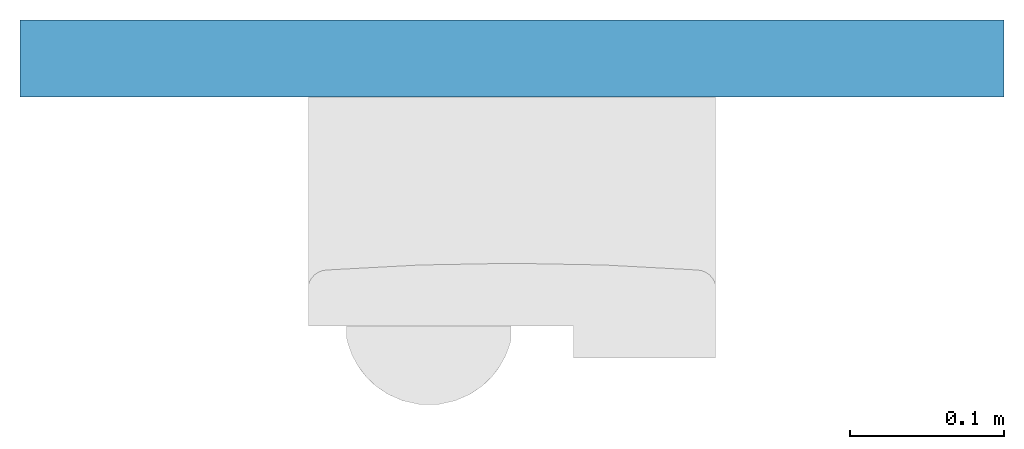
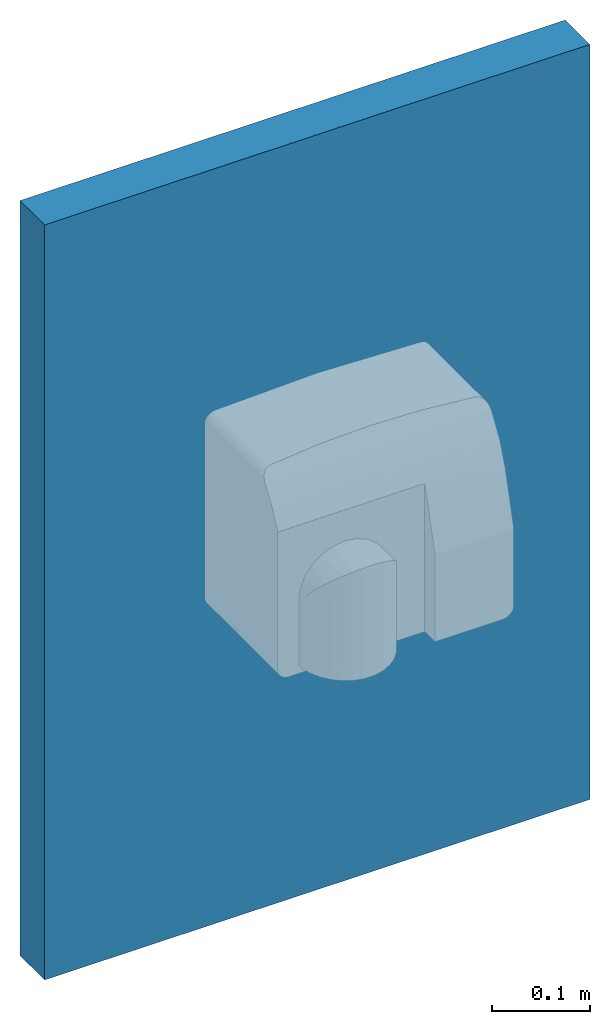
# One storey, part 1 of 2: 1 wall.
"""IFC2X3 building model written with IfcOpenShell, lengths in millimetres."""

from ifc_helpers import new_model, entity, si_unit, converted_unit, derived_unit, direction, frame, frame_2d, origin, place, context, subcontext, project, spatial, rectangle, extrude, material, layer, layer_set, layer_usage, type_object, element, save


model = new_model("IFC2X3")

# Units and contexts
model_context = context("Model", 3, precision=1e-05, world=origin(), true_north=direction((2.0, 6.12303176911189e-17, 1.0)))
context_of_model = context(None, 3, precision=1e-05, world=origin(), true_north=direction((2.0, 6.12303176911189e-17, 1.0)))
body_context = subcontext(model_context, "Body", "Model", "MODEL_VIEW")
ifc_project = project(units=[si_unit("LENGTHUNIT", "METRE", prefix="MILLI"), si_unit("AREAUNIT", "SQUARE_METRE"), si_unit("VOLUMEUNIT", "CUBIC_METRE"), converted_unit("PLANEANGLEUNIT", "DEGREE", entity("IfcRatioMeasure", 0.0174532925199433), si_unit("PLANEANGLEUNIT", "RADIAN"), dimensions=[0, 0, 0, 0, 0, 0, 0]), si_unit("MASSUNIT", "GRAM", prefix="KILO"), si_unit("TIMEUNIT", "SECOND"), si_unit("THERMODYNAMICTEMPERATUREUNIT", "KELVIN"), derived_unit("THERMALTRANSMITTANCEUNIT", [(si_unit("MASSUNIT", "GRAM", prefix="KILO"), 1), (si_unit("THERMODYNAMICTEMPERATUREUNIT", "KELVIN"), -1), (si_unit("TIMEUNIT", "SECOND"), -3)]), derived_unit("VOLUMETRICFLOWRATEUNIT", [(si_unit("LENGTHUNIT", "METRE"), 3), (si_unit("TIMEUNIT", "SECOND"), -1)]), si_unit("POWERUNIT", "WATT")], contexts=[model_context, context_of_model])

# Site, building, storey
site_placement = place(None, origin())
site = spatial("IfcSite", under=ifc_project, at=site_placement, Name="Default", CompositionType="ELEMENT")
building_placement = place(site_placement, origin())
building = spatial("IfcBuilding", under=site, at=building_placement, CompositionType="ELEMENT")
storey_placement = place(building_placement, origin())
storey = spatial("IfcBuildingStorey", under=building, at=storey_placement, Name="Level 1", CompositionType="ELEMENT", Elevation=0.0)

# Wall
ifc_material = material(Name="Default Wall")
ifc_layer = layer(ifc_material, 50.0)
ifc_layer_set = layer_set([ifc_layer], Name="Basic Wall:Wall 1")
ifc_layer_usage = layer_usage(ifc_layer_set, "AXIS2", "NEGATIVE", 25.0)
wall_type = type_object("IfcWallType", Name="Basic Wall:Wall 1", PredefinedType="STANDARD", material=ifc_layer_set)
wall_placement = place(storey_placement, frame((958.20150339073, 3977.69853342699, 0.0)))
element("IfcWallStandardCase", 1, at=wall_placement, inside=storey, type_object=wall_type, material=ifc_layer_usage, Name="Basic Wall:Wall 1:3092", ObjectType="Basic Wall:Wall 1:1494", context=body_context, shape_type="SweptSolid", body=[
    extrude(rectangle(XDim=640.0, YDim=49.9999999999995, at=frame_2d((320.0, 0.0), x_axis=(-1.0, 0.0))), origin(), (0.0, 0.0, 1.0), 936.966674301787),
])

save(model, "model.ifc")
